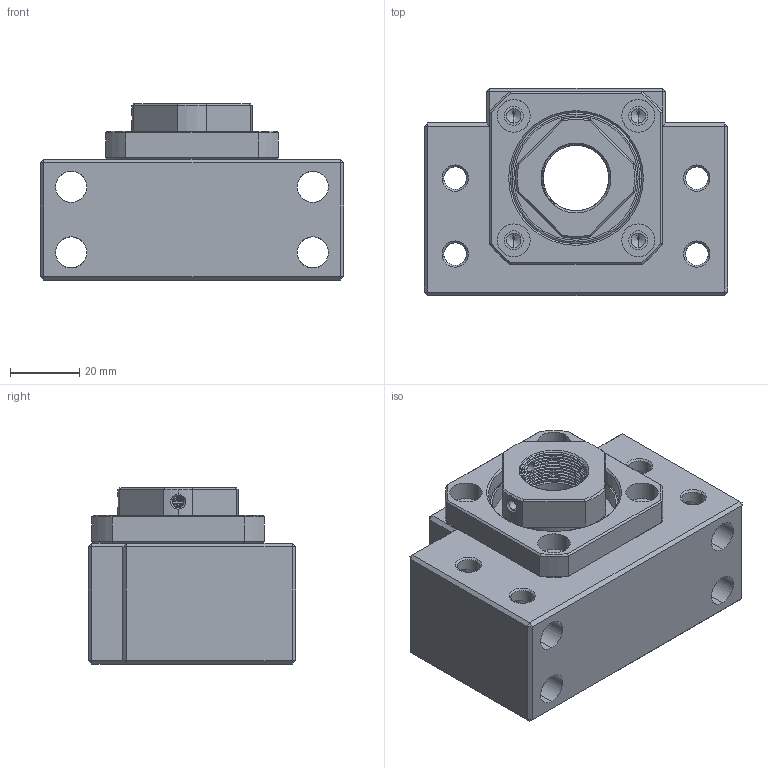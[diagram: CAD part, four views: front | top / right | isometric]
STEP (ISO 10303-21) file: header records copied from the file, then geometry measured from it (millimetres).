
FILE_DESCRIPTION (( 'STEP AP214' ), '1' );
FILE_NAME ('2.4008 Kuularuuvin tukilaakeri BK20.STEP', '2024-05-07T05:53:26', ( '' ), ( '' ), 'SwSTEP 2.0', 'SolidWorks 2024', '' );
FILE_SCHEMA (( 'AUTOMOTIVE_DESIGN' ));
Length unit declared in the file: millimetre
Products named in the file (1): 2.4008 Kuularuuvin tukilaakeri BK20
Bounding box: 88 x 60 x 51 mm (x, y, z)
Volume: 143772.1 mm3; surface area: 62763.2 mm2
Topology: 37 solids, 37 shells, 489 faces, 1264 edges, 785 vertices
Faces by surface type: cylinder 160, plane 103, torus 80, cone 76, sphere 52, bspline 18
Entity records: 23324 total; most frequent: CARTESIAN_POINT 7941, DIRECTION 2456, ORIENTED_EDGE 2244, EDGE_CURVE 1122, AXIS2_PLACEMENT_3D 1046, VERTEX_POINT 703, CIRCLE 574, EDGE_LOOP 551
